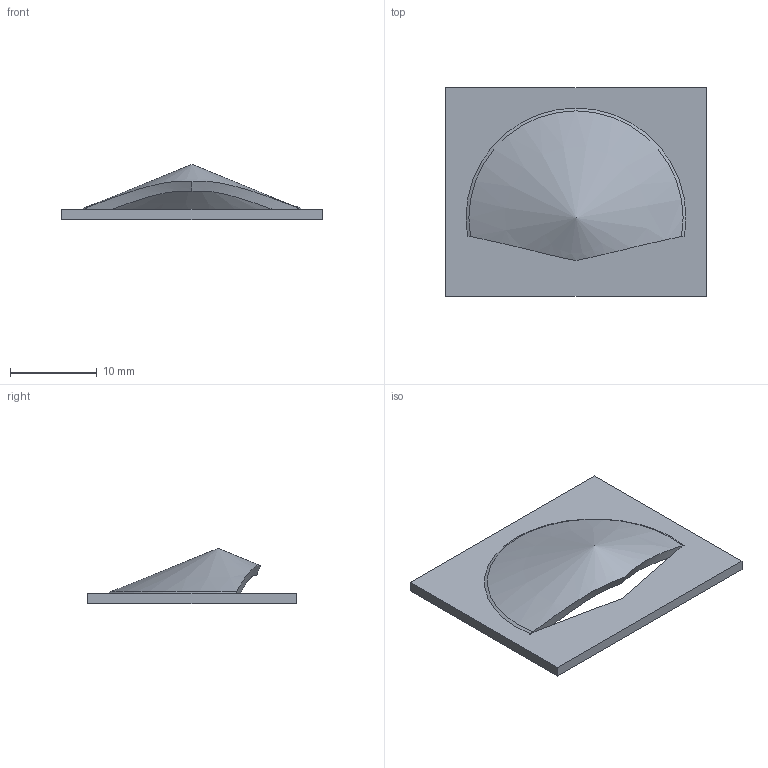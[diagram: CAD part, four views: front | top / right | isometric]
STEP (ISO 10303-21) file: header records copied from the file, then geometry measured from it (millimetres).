
FILE_DESCRIPTION((''),'2;1');
FILE_NAME('C:/Users/ericfrey/Desktop/NEW EMBOSS.STP', '2024-02-28T21:05:20',(''), (''), 'Kubotek Kosmos Version 5.3.13691.13691', 'KeyCreator Pro', '');
FILE_SCHEMA(('CONFIG_CONTROL_DESIGN'));
Length unit declared in the file: inch
Bounding box: 30 x 24.01 x 6.33 mm (x, y, z)
Volume: 898.9 mm3; surface area: 1689.7 mm2
Topology: 1 solids, 1 shells, 18 faces, 45 edges, 28 vertices
Faces by surface type: plane 8, bspline 6, torus 2, cone 2
Entity records: 1524 total; most frequent: CARTESIAN_POINT 994, ORIENTED_EDGE 84, DIRECTION 63, GENERAL_PROPERTY 59, EDGE_CURVE 42, VECTOR 27, LINE 27, VERTEX_POINT 26
